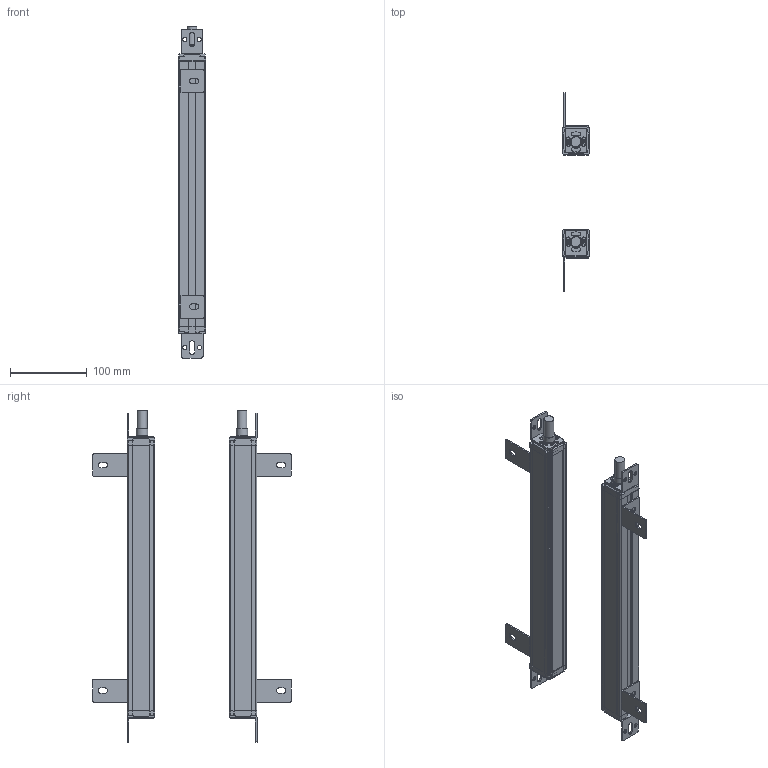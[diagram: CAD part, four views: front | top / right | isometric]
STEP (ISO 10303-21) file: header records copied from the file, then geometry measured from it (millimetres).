
FILE_DESCRIPTION(/* description */ (''),/* implementation_level */ '2;1');
FILE_NAME(/* name */ '3210_35X35_stp_stp.stp',/* time_stamp */ '2023-09-18T17:12:37+08:00',/* author */ (''),/* organization */ (''),/* preprocessor_version */ 'ST-DEVELOPER v16.7',/* originating_system */ 'SIEMENS PLM Software NX 12.0',/* authorisation */ '');
FILE_SCHEMA (('AP203_CONFIGURATION_CONTROLLED_3D_DESIGN_OF_MECHANICAL_PARTS_AND_ASSEMBLIES_MIM_LF { 1 0 10303 403 2 1 2}'));
Length unit declared in the file: millimetre
Products named in the file (1): 0420_35X35_stp_stp
Bounding box: 35.41 x 258.01 x 431.6 mm (x, y, z)
Volume: 387903 mm3; surface area: 300108 mm2
Topology: 28 solids, 28 shells, 1182 faces, 3360 edges, 2260 vertices
Faces by surface type: plane 658, cylinder 464, cone 60
Full cylindrical faces by diameter (mm): 3.2 x8, 6 x24, 13 x2, 14.4 x2, 15 x2
Entity records: 39055 total; most frequent: DIRECTION 6832, CARTESIAN_POINT 6745, ORIENTED_EDGE 6612, EDGE_CURVE 3306, AXIS2_PLACEMENT_3D 2347, VERTEX_POINT 2244, LINE 2138, VECTOR 2138
